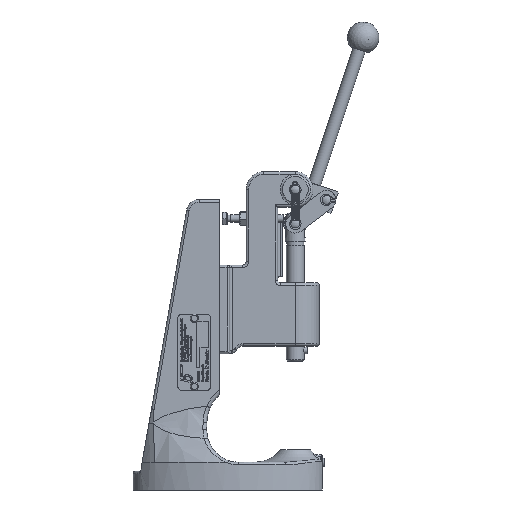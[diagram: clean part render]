
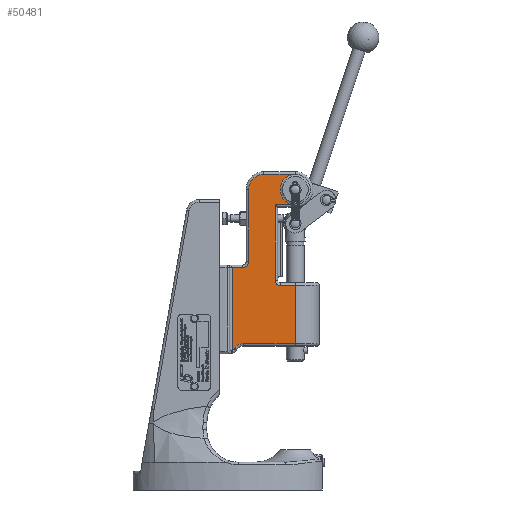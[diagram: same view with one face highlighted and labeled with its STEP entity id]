
A CAD part, left-side view. The second image highlights one B-rep face of the part: STEP entity #50481.
In plain terms, the highlighted planar face has unit normal (-1, 0, 0).
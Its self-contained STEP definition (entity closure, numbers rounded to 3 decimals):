
#4208=LINE('',#77545,#8713);
#4249=LINE('',#78029,#8754);
#4250=LINE('',#78031,#8755);
#4251=LINE('',#78033,#8756);
#4252=LINE('',#78037,#8757);
#4253=LINE('',#78038,#8758);
#4254=LINE('',#78040,#8759);
#4255=LINE('',#78044,#8760);
#4256=LINE('',#78047,#8761);
#8713=VECTOR('',#57185,65.75);
#8754=VECTOR('',#57436,41.);
#8755=VECTOR('',#57437,46.);
#8756=VECTOR('',#57438,12.);
#8757=VECTOR('',#57441,60.);
#8758=VECTOR('',#57442,16.);
#8759=VECTOR('',#57443,25.);
#8760=VECTOR('',#57446,57.);
#8761=VECTOR('',#57449,8.);
#12985=PLANE('',#53663);
#17328=FACE_OUTER_BOUND('',#20183,.T.);
#20183=EDGE_LOOP('',(#37546,#37547,#37548,#37549,#37550,#37551,#37552,#37553,
#37554,#37555,#37556,#37557,#37558,#37559,#37560));
#23283=CIRCLE('',#53661,12.);
#23285=CIRCLE('',#53664,4.);
#23286=CIRCLE('',#53665,8.);
#23287=CIRCLE('',#53666,4.);
#23288=CIRCLE('',#53667,12.);
#23289=CIRCLE('',#53668,5.);
#24173=VERTEX_POINT('',#77537);
#24175=VERTEX_POINT('',#77543);
#24232=VERTEX_POINT('',#78019);
#24233=VERTEX_POINT('',#78020);
#24234=VERTEX_POINT('',#78024);
#24235=VERTEX_POINT('',#78026);
#24236=VERTEX_POINT('',#78028);
#24237=VERTEX_POINT('',#78030);
#24238=VERTEX_POINT('',#78032);
#24239=VERTEX_POINT('',#78034);
#24240=VERTEX_POINT('',#78036);
#24241=VERTEX_POINT('',#78039);
#24242=VERTEX_POINT('',#78041);
#24243=VERTEX_POINT('',#78043);
#24244=VERTEX_POINT('',#78045);
#29279=EDGE_CURVE('',#24175,#24173,#4208,.T.);
#29391=EDGE_CURVE('',#24232,#24233,#23283,.T.);
#29393=EDGE_CURVE('',#24234,#24175,#23285,.T.);
#29394=EDGE_CURVE('',#24235,#24234,#23286,.T.);
#29395=EDGE_CURVE('',#24236,#24235,#4249,.T.);
#29396=EDGE_CURVE('',#24236,#24237,#4250,.T.);
#29397=EDGE_CURVE('',#24238,#24237,#4251,.T.);
#29398=EDGE_CURVE('',#24239,#24238,#23287,.T.);
#29399=EDGE_CURVE('',#24240,#24239,#4252,.T.);
#29400=EDGE_CURVE('',#24240,#24233,#4253,.T.);
#29401=EDGE_CURVE('',#24241,#24232,#4254,.T.);
#29402=EDGE_CURVE('',#24242,#24241,#23288,.T.);
#29403=EDGE_CURVE('',#24243,#24242,#4255,.T.);
#29404=EDGE_CURVE('',#24244,#24243,#23289,.T.);
#29405=EDGE_CURVE('',#24173,#24244,#4256,.T.);
#37546=ORIENTED_EDGE('',*,*,#29279,.F.);
#37547=ORIENTED_EDGE('',*,*,#29393,.F.);
#37548=ORIENTED_EDGE('',*,*,#29394,.F.);
#37549=ORIENTED_EDGE('',*,*,#29395,.F.);
#37550=ORIENTED_EDGE('',*,*,#29396,.T.);
#37551=ORIENTED_EDGE('',*,*,#29397,.F.);
#37552=ORIENTED_EDGE('',*,*,#29398,.F.);
#37553=ORIENTED_EDGE('',*,*,#29399,.F.);
#37554=ORIENTED_EDGE('',*,*,#29400,.T.);
#37555=ORIENTED_EDGE('',*,*,#29391,.F.);
#37556=ORIENTED_EDGE('',*,*,#29401,.F.);
#37557=ORIENTED_EDGE('',*,*,#29402,.F.);
#37558=ORIENTED_EDGE('',*,*,#29403,.F.);
#37559=ORIENTED_EDGE('',*,*,#29404,.F.);
#37560=ORIENTED_EDGE('',*,*,#29405,.F.);
#50481=ADVANCED_FACE('',(#17328),#12985,.T.);
#53661=AXIS2_PLACEMENT_3D('',#78021,#57426,#57427);
#53663=AXIS2_PLACEMENT_3D('',#78023,#57430,#57431);
#53664=AXIS2_PLACEMENT_3D('',#78025,#57432,#57433);
#53665=AXIS2_PLACEMENT_3D('',#78027,#57434,#57435);
#53666=AXIS2_PLACEMENT_3D('',#78035,#57439,#57440);
#53667=AXIS2_PLACEMENT_3D('',#78042,#57444,#57445);
#53668=AXIS2_PLACEMENT_3D('',#78046,#57447,#57448);
#57185=DIRECTION('',(0.,0.,1.));
#57426=DIRECTION('center_axis',(-1.,0.,0.));
#57427=DIRECTION('ref_axis',(0.,-1.,0.));
#57430=DIRECTION('center_axis',(-1.,0.,0.));
#57431=DIRECTION('ref_axis',(0.,-1.,0.));
#57432=DIRECTION('center_axis',(1.,0.,0.));
#57433=DIRECTION('ref_axis',(0.,-0.5,-0.866));
#57434=DIRECTION('center_axis',(-1.,0.,0.));
#57435=DIRECTION('ref_axis',(0.,0.5,0.866));
#57436=DIRECTION('',(0.,1.,0.));
#57437=DIRECTION('',(0.,0.,1.));
#57438=DIRECTION('',(0.,-1.,0.));
#57439=DIRECTION('center_axis',(-1.,0.,0.));
#57440=DIRECTION('ref_axis',(0.,0.707,-0.707));
#57441=DIRECTION('',(0.,0.,-1.));
#57442=DIRECTION('',(0.,-1.,0.));
#57443=DIRECTION('',(0.,-1.,0.));
#57444=DIRECTION('center_axis',(1.,0.,0.));
#57445=DIRECTION('ref_axis',(0.,0.707,0.707));
#57446=DIRECTION('',(0.,0.,1.));
#57447=DIRECTION('center_axis',(-1.,0.,0.));
#57448=DIRECTION('ref_axis',(0.,-0.707,-0.707));
#57449=DIRECTION('',(0.,-1.,0.));
#77537=CARTESIAN_POINT('',(-19.,50.,115.));
#77543=CARTESIAN_POINT('',(-19.,50.,49.25));
#77545=CARTESIAN_POINT('',(-19.,50.,47.));
#78019=CARTESIAN_POINT('',(-19.,0.,189.));
#78020=CARTESIAN_POINT('',(-19.,0.,165.));
#78021=CARTESIAN_POINT('Origin',(-19.,0.,177.));
#78023=CARTESIAN_POINT('Origin',(-19.,52.,47.));
#78024=CARTESIAN_POINT('',(-19.,47.928,51.));
#78025=CARTESIAN_POINT('Origin',(-19.,51.392,53.));
#78026=CARTESIAN_POINT('',(-19.,41.,55.));
#78027=CARTESIAN_POINT('Origin',(-19.,41.,47.));
#78028=CARTESIAN_POINT('',(-19.,0.,55.));
#78029=CARTESIAN_POINT('',(-19.,49.5,55.));
#78030=CARTESIAN_POINT('',(-19.,0.,101.));
#78031=CARTESIAN_POINT('',(-19.,0.,47.));
#78032=CARTESIAN_POINT('',(-19.,12.,101.));
#78033=CARTESIAN_POINT('',(-19.,9.402,101.));
#78034=CARTESIAN_POINT('',(-19.,16.,105.));
#78035=CARTESIAN_POINT('Origin',(-19.,12.,105.));
#78036=CARTESIAN_POINT('',(-19.,16.,165.));
#78037=CARTESIAN_POINT('',(-19.,16.,105.));
#78038=CARTESIAN_POINT('',(-19.,26.,165.));
#78039=CARTESIAN_POINT('',(-19.,25.,189.));
#78040=CARTESIAN_POINT('',(-19.,38.5,189.));
#78041=CARTESIAN_POINT('',(-19.,37.,177.));
#78042=CARTESIAN_POINT('Origin',(-19.,25.,177.));
#78043=CARTESIAN_POINT('',(-19.,37.,120.));
#78044=CARTESIAN_POINT('',(-19.,37.,82.));
#78045=CARTESIAN_POINT('',(-19.,42.,115.));
#78046=CARTESIAN_POINT('Origin',(-19.,42.,120.));
#78047=CARTESIAN_POINT('',(-19.,42.295,115.));
